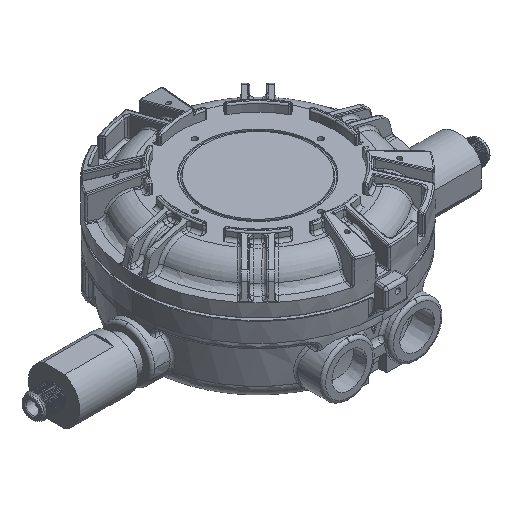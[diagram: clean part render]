
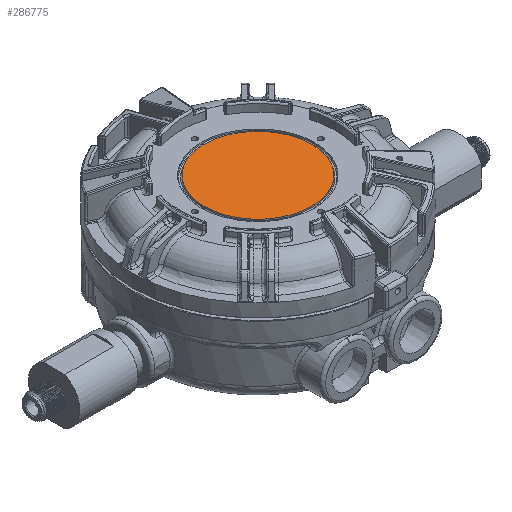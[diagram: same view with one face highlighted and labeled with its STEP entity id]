
A CAD part, isometric view. The second image highlights one B-rep face of the part: STEP entity #286775.
In plain terms, the highlighted planar face has unit normal (0, 0, 1).
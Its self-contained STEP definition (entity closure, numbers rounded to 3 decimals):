
#286706 = VERTEX_POINT('',#286707);
#286707 = CARTESIAN_POINT('',(-36.5,0.,24.));
#286713 = EDGE_CURVE('',#286714,#286706,#286716,.T.);
#286714 = VERTEX_POINT('',#286715);
#286715 = CARTESIAN_POINT('',(36.5,0.,24.));
#286716 = CIRCLE('',#286717,36.5);
#286717 = AXIS2_PLACEMENT_3D('',#286718,#286719,#286720);
#286718 = CARTESIAN_POINT('',(0.,0.,24.));
#286719 = DIRECTION('',(0.,0.,1.));
#286720 = DIRECTION('',(-1.,0.,0.));
#286740 = EDGE_CURVE('',#286706,#286714,#286741,.T.);
#286741 = CIRCLE('',#286742,36.5);
#286742 = AXIS2_PLACEMENT_3D('',#286743,#286744,#286745);
#286743 = CARTESIAN_POINT('',(0.,0.,24.));
#286744 = DIRECTION('',(0.,0.,1.));
#286745 = DIRECTION('',(-1.,0.,0.));
#286775 = ADVANCED_FACE('',(#286776),#286780,.F.);
#286776 = FACE_BOUND('',#286777,.T.);
#286777 = EDGE_LOOP('',(#286778,#286779));
#286778 = ORIENTED_EDGE('',*,*,#286713,.T.);
#286779 = ORIENTED_EDGE('',*,*,#286740,.T.);
#286780 = PLANE('',#286781);
#286781 = AXIS2_PLACEMENT_3D('',#286782,#286783,#286784);
#286782 = CARTESIAN_POINT('',(0.,0.,24.));
#286783 = DIRECTION('',(0.,0.,-1.));
#286784 = DIRECTION('',(-1.,0.,0.));
